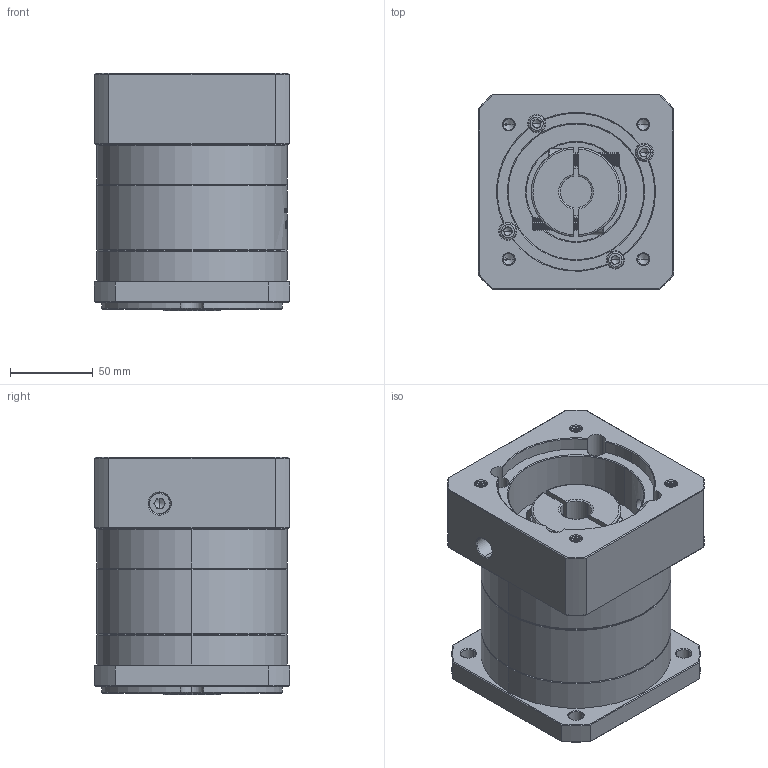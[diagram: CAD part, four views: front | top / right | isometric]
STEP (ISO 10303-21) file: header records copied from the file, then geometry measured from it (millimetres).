
FILE_DESCRIPTION (( 'STEP AP214' ), '1' );
FILE_NAME ('ZF120A-K25-L1-19-95-115-M8.step', '2023-03-07T09:36:23', ( '' ), ( '' ), 'SwSTEP 2.0', 'SolidWorks 2016', '' );
FILE_SCHEMA (( 'AUTOMOTIVE_DESIGN' ));
Length unit declared in the file: millimetre
Products named in the file (1): ZF120A-K25-L1-19-95-115-M8
Bounding box: 118 x 118 x 143.5 mm (x, y, z)
Volume: 1418967.5 mm3; surface area: 163301.5 mm2
Topology: 6 solids, 6 shells, 1911 faces, 5036 edges, 3219 vertices
Faces by surface type: plane 850, cylinder 396, cone 333, bspline 332
Entity records: 102466 total; most frequent: CARTESIAN_POINT 37830, ORIENTED_EDGE 10016, DIRECTION 7797, EDGE_CURVE 5008, VERTEX_POINT 3219, VECTOR 2705, LINE 2705, AXIS2_PLACEMENT_3D 2546
